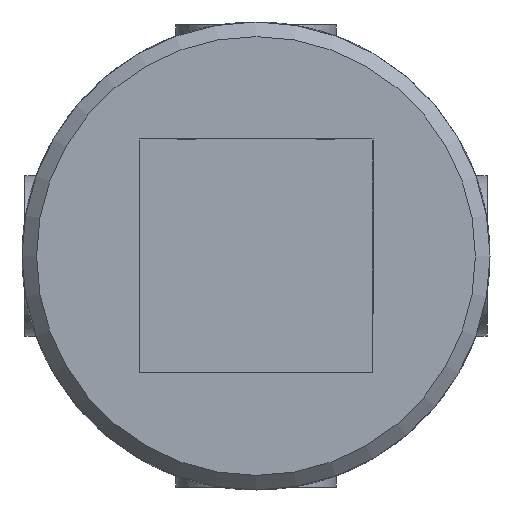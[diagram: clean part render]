
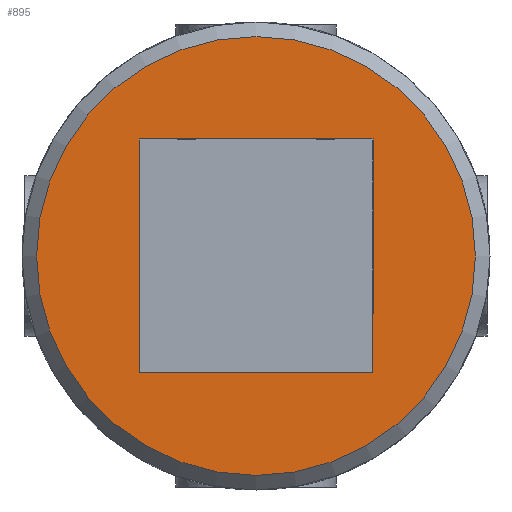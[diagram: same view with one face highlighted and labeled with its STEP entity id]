
A CAD part, front view. The second image highlights one B-rep face of the part: STEP entity #895.
In plain terms, the highlighted planar face has unit normal (0, -1, 0).
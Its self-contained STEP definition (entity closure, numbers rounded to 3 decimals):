
#98=LINE('',#1347,#138);
#102=LINE('',#1370,#142);
#108=LINE('',#1408,#148);
#111=LINE('',#1428,#151);
#138=VECTOR('',#1100,16.);
#142=VECTOR('',#1108,16.);
#148=VECTOR('',#1116,16.);
#151=VECTOR('',#1123,16.);
#178=PLANE('',#975);
#203=FACE_BOUND('',#307,.T.);
#236=FACE_OUTER_BOUND('',#306,.T.);
#306=EDGE_LOOP('',(#713));
#307=EDGE_LOOP('',(#714,#715,#716,#717));
#360=CIRCLE('',#973,15.);
#404=VERTEX_POINT('',#1344);
#405=VERTEX_POINT('',#1346);
#411=VERTEX_POINT('',#1369);
#420=VERTEX_POINT('',#1406);
#427=VERTEX_POINT('',#1475);
#495=EDGE_CURVE('',#405,#404,#98,.T.);
#502=EDGE_CURVE('',#411,#405,#102,.T.);
#512=EDGE_CURVE('',#404,#420,#108,.T.);
#518=EDGE_CURVE('',#420,#411,#111,.T.);
#529=EDGE_CURVE('',#427,#427,#360,.T.);
#713=ORIENTED_EDGE('',*,*,#529,.F.);
#714=ORIENTED_EDGE('',*,*,#495,.T.);
#715=ORIENTED_EDGE('',*,*,#512,.T.);
#716=ORIENTED_EDGE('',*,*,#518,.T.);
#717=ORIENTED_EDGE('',*,*,#502,.T.);
#895=ADVANCED_FACE('',(#236,#203),#178,.F.);
#973=AXIS2_PLACEMENT_3D('',#1476,#1152,#1153);
#975=AXIS2_PLACEMENT_3D('',#1688,#1160,#1161);
#1100=DIRECTION('',(0.,0.,-1.));
#1108=DIRECTION('',(1.,0.,0.));
#1116=DIRECTION('',(-1.,0.,0.));
#1123=DIRECTION('',(0.,0.,1.));
#1152=DIRECTION('center_axis',(0.,1.,0.));
#1153=DIRECTION('ref_axis',(1.,0.,0.));
#1160=DIRECTION('center_axis',(0.,1.,0.));
#1161=DIRECTION('ref_axis',(0.,0.,1.));
#1344=CARTESIAN_POINT('',(8.,-51.,-8.));
#1346=CARTESIAN_POINT('',(8.,-51.,8.));
#1347=CARTESIAN_POINT('',(8.,-51.,4.));
#1369=CARTESIAN_POINT('',(-8.,-51.,8.));
#1370=CARTESIAN_POINT('',(-4.,-51.,8.));
#1406=CARTESIAN_POINT('',(-8.,-51.,-8.));
#1408=CARTESIAN_POINT('',(4.,-51.,-8.));
#1428=CARTESIAN_POINT('',(-8.,-51.,-4.));
#1475=CARTESIAN_POINT('',(-15.,-51.,0.));
#1476=CARTESIAN_POINT('Origin',(0.,-51.,0.));
#1688=CARTESIAN_POINT('Origin',(0.,-51.,0.));
